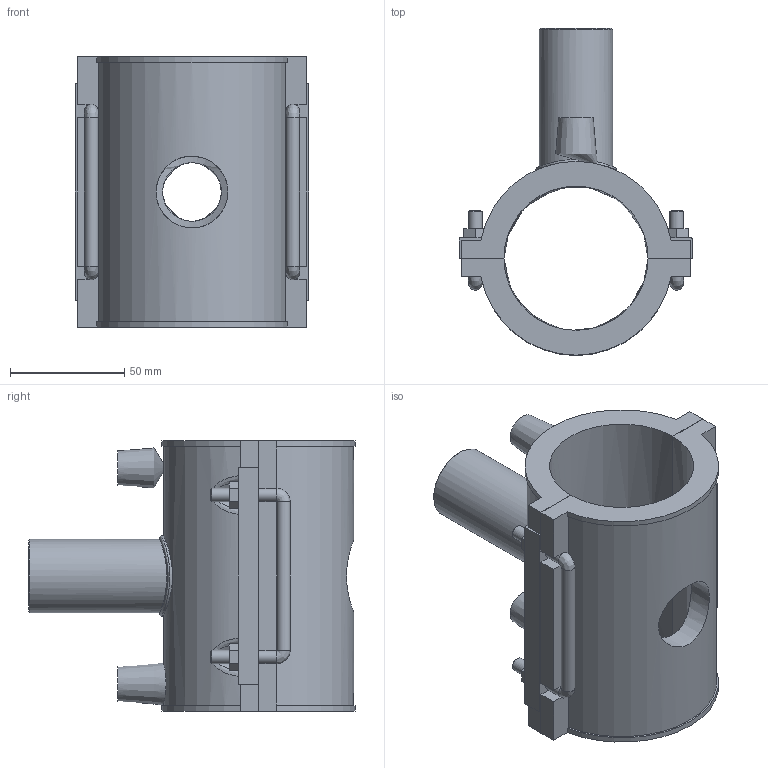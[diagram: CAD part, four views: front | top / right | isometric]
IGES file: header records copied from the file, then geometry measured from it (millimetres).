
Global section: file name: 495804063032.ipt; native system: Autodesk Inventor 2015; preprocessor: unknown; author: KIM; date: 20180426.120821; units: millimetre
Bounding box: 102 x 142.83 x 118 mm (x, y, z)
Volume: 322791.9 mm3; surface area: 91177.6 mm2
Topology: 2 solids, 2 shells, 133 faces, 340 edges, 214 vertices
Faces by surface type: plane 85, cylinder 22, revolution 10, bspline 9, cone 7
Full cylindrical faces by diameter (mm): 4 x2, 6 x10, 32 x1, 35.2 x1
